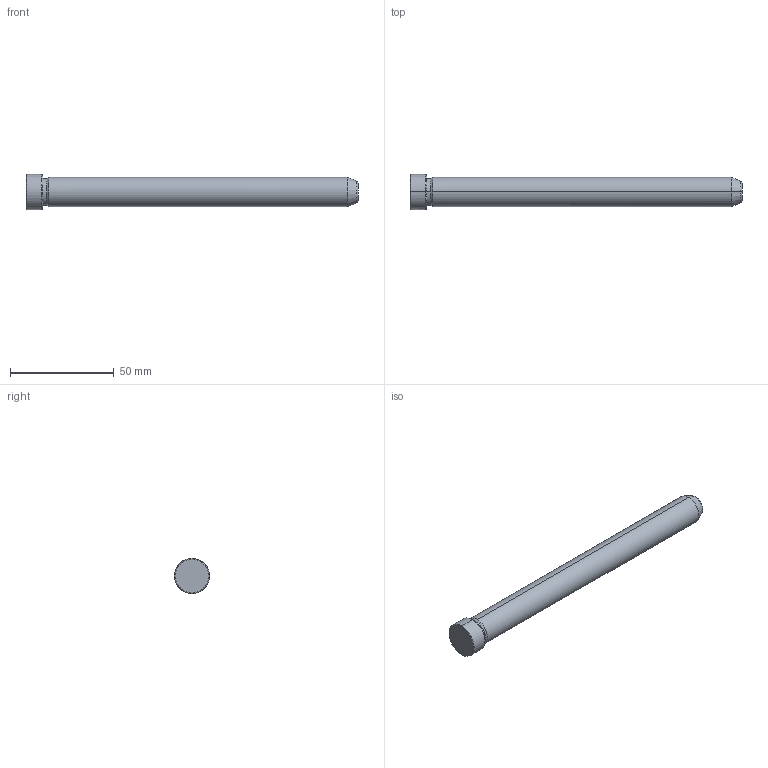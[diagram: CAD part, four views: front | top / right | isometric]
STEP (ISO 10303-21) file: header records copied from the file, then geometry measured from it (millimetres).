
FILE_DESCRIPTION(('CATIA V5 STEP Exchange'),'2;1');
FILE_NAME('C:\Users\Utente\Desktop\IO LAVORO\3D X SITO CF\X SITO\PLASTICA\549\549-14X160.stp','2021-12-11T09:17:46+00:00',('none'),('none'),'CATIA Version 5 Release 20 GA (IN-10)','CATIA V5 STEP AP203','none');
FILE_SCHEMA(('CONFIG_CONTROL_DESIGN'));
Length unit declared in the file: millimetre
Products named in the file (1): 549-14X160
Bounding box: 160 x 17 x 17 mm (x, y, z)
Volume: 24954.7 mm3; surface area: 7468.5 mm2
Topology: 1 solids, 1 shells, 19 faces, 56 edges, 40 vertices
Faces by surface type: cone 8, cylinder 6, plane 3, torus 2
Entity records: 736 total; most frequent: CARTESIAN_POINT 192, ORIENTED_EDGE 112, DIRECTION 86, EDGE_CURVE 56, AXIS2_PLACEMENT_3D 54, VERTEX_POINT 40, CIRCLE 34, EDGE_LOOP 20
